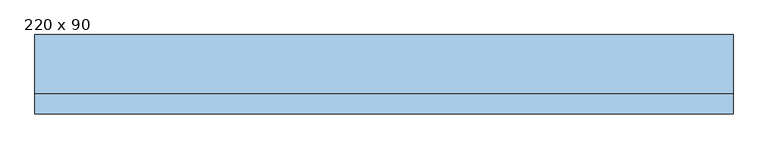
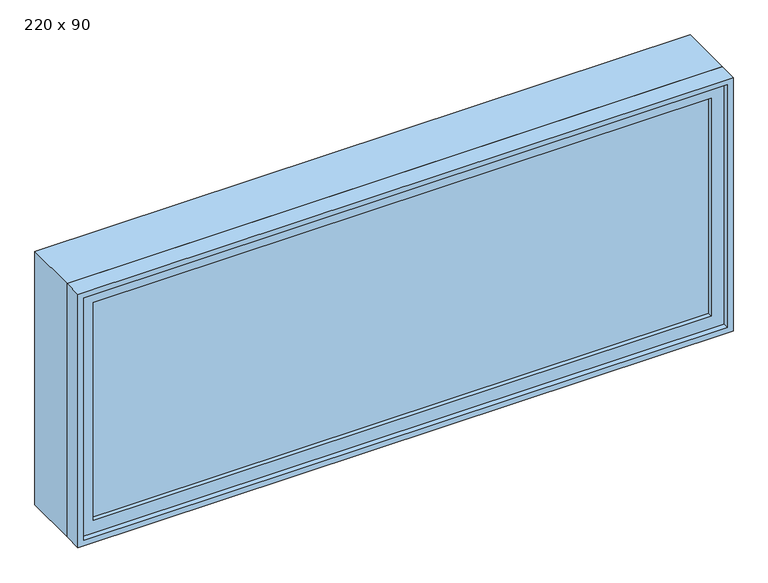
"""IFC4 building model written with IfcOpenShell, lengths in millimetres: window geometry, M_Fixado : 220 x 90."""

from ifc_helpers import new_model, si_unit, frame, origin, place, context, project, spatial, polyline, outline, extrude, source, transform, mapped, element, save


def window_220_x_90_84e01c73(model_context):
    return source(origin(), model_context, "Body", "SweptSolid", [
        extrude(outline(polyline([(-1037.0, -103.0), (-1037.0, -91.0), (1037.0, -91.0), (1037.0, -103.0), (-1037.0, -103.0)])), frame((0.0, 0.0, 978.0), z_axis=(0.0, 0.0, 1.0), x_axis=(1.0, 0.0, 0.0)), (0.0, 0.0, 1.0), 774.0),
        extrude(outline(polyline([(1796.0, -1081.0), (934.0, -1081.0), (934.0, 1081.0), (1796.0, 1081.0), (1796.0, -1081.0)]), holes=[polyline([(1752.0, -1037.0), (1752.0, 1037.0), (978.0, 1037.0), (978.0, -1037.0), (1752.0, -1037.0)])]), frame((0.0, -119.0, 0.0), z_axis=(0.0, 1.0, 0.0), x_axis=(0.0, 0.0, 1.0)), (0.0, 0.0, 1.0), 44.0),
        extrude(outline(polyline([(1815.0, -1100.0), (915.0, -1100.0), (915.0, 1100.0), (1815.0, 1100.0), (1815.0, -1100.0)]), holes=[polyline([(1796.0, -1081.0), (1796.0, 1081.0), (934.0, 1081.0), (934.0, -1081.0), (1796.0, -1081.0)])]), frame((0.0, -138.0, 0.0), z_axis=(0.0, 1.0, 0.0), x_axis=(0.0, 0.0, 1.0)), (0.0, 0.0, 1.0), 63.0),
        extrude(outline(polyline([(1815.0, -1100.0), (915.0, -1100.0), (915.0, 1100.0), (1815.0, 1100.0), (1815.0, -1100.0)]), holes=[polyline([(1783.0, -1068.0), (1783.0, 1068.0), (947.0, 1068.0), (947.0, -1068.0), (1783.0, -1068.0)])]), frame((0.0, -75.0, 0.0), z_axis=(0.0, 1.0, 0.0), x_axis=(0.0, 0.0, 1.0)), (0.0, 0.0, 1.0), 187.0),
    ])


if __name__ == "__main__":
    model = new_model("IFC4")
    model_context = context("Model", 3, world=origin())
    ifc_project = project(units=[si_unit("LENGTHUNIT", "METRE", prefix="MILLI")], contexts=[model_context])
    site = spatial("IfcSite", under=ifc_project)
    building = spatial("IfcBuilding", under=site)
    placement = place(None, origin())
    window_220_x_90_shape = window_220_x_90_84e01c73(model_context)
    element("IfcWindow", 1, ObjectType="M_Fixado : 220 x 90", at=placement, inside=building, context=model_context, shape_type="MappedRepresentation", body=[
        mapped(window_220_x_90_shape, transform((0.0, 0.0, 0.0), x_axis=(1.0, 0.0, 0.0), y_axis=(0.0, 1.0, 0.0), z_axis=(0.0, 0.0, 1.0))),
    ])
    save(model, "model.ifc")
